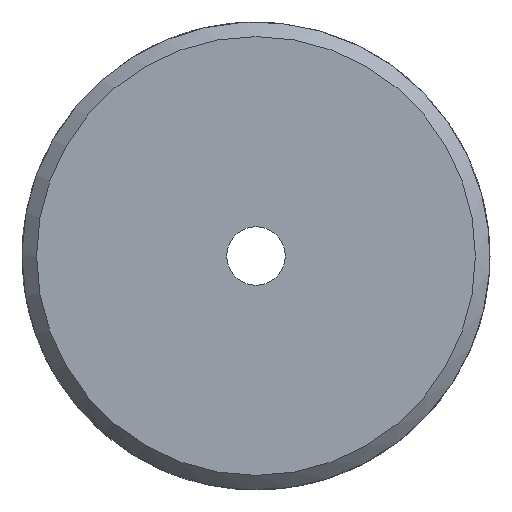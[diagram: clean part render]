
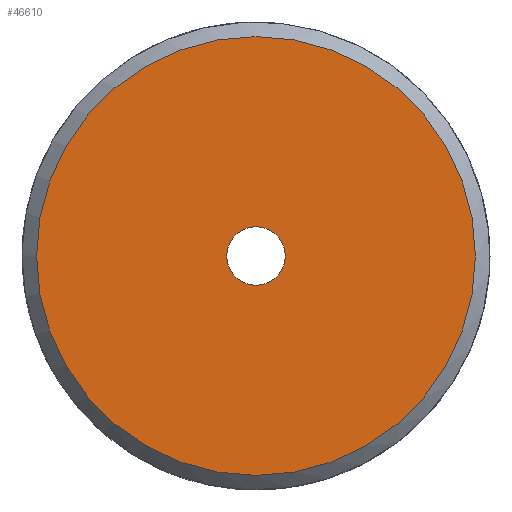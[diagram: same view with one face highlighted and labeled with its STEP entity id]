
A CAD part, left-side view. The second image highlights one B-rep face of the part: STEP entity #46610.
In plain terms, the highlighted planar face has unit normal (-1, 0, 0).
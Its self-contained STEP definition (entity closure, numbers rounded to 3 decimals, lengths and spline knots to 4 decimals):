
#12997=PLANE('',#46220);
#16897=ORIENTED_EDGE('',*,*,#19479,.F.);
#16898=ORIENTED_EDGE('',*,*,#19478,.F.);
#17260=CIRCLE('',#46219,1.);
#17261=CIRCLE('',#46221,7.5);
#18181=VERTEX_POINT('',#45497);
#18182=VERTEX_POINT('',#45500);
#19478=EDGE_CURVE('',#18181,#18181,#17260,.T.);
#19479=EDGE_CURVE('',#18182,#18182,#17261,.T.);
#19862=EDGE_LOOP('',(#16897));
#19863=EDGE_LOOP('',(#16898));
#20248=FACE_BOUND('',#19862,.T.);
#20249=FACE_BOUND('',#19863,.T.);
#21680=DIRECTION('',(-1.,0.,0.));
#21681=DIRECTION('',(0.,0.,1.));
#21682=DIRECTION('',(-1.,0.,0.));
#21683=DIRECTION('',(0.,1.,0.));
#21684=DIRECTION('',(1.,0.,0.));
#21685=DIRECTION('',(0.,0.,-7.5));
#45497=CARTESIAN_POINT('',(24.6252,170.5144,1.));
#45498=CARTESIAN_POINT('',(24.6252,170.5144,0.));
#45499=CARTESIAN_POINT('',(24.6252,170.5144,-7.5));
#45500=CARTESIAN_POINT('',(24.6252,170.5144,-7.5));
#45501=CARTESIAN_POINT('',(24.6252,170.5144,0.));
#46219=AXIS2_PLACEMENT_3D('',#45498,#21680,#21681);
#46220=AXIS2_PLACEMENT_3D('',#45499,#21682,#21683);
#46221=AXIS2_PLACEMENT_3D('',#45501,#21684,#21685);
#46610=ADVANCED_FACE('',(#20248,#20249),#12997,.T.);
